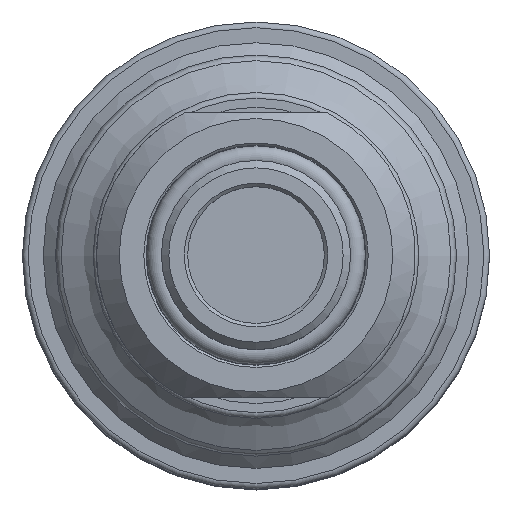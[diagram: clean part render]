
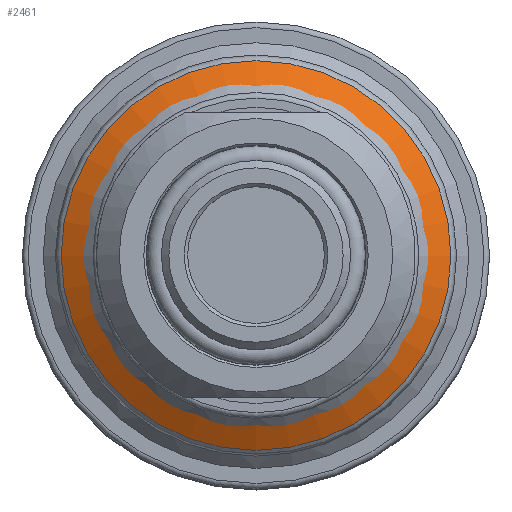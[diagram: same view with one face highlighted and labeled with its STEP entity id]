
A CAD part, top view. The second image highlights one B-rep face of the part: STEP entity #2461.
In plain terms, the highlighted conical face has half-angle 59.976 degrees and reference radius 13.9 mm.
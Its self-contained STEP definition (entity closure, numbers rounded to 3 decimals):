
#2461 = ADVANCED_FACE( '', ( #5299, #5300 ), #5301, .T. );
#5299 = FACE_OUTER_BOUND( '', #9477, .T. );
#5300 = FACE_BOUND( '', #9478, .T. );
#5301 = CONICAL_SURFACE( '', #9479, 13.9, 1.047 );
#9477 = EDGE_LOOP( '', ( #12509 ) );
#9478 = EDGE_LOOP( '', ( #12510 ) );
#9479 = AXIS2_PLACEMENT_3D( '', #12511, #12512, #12513 );
#12509 = ORIENTED_EDGE( '', *, *, #17017, .F. );
#12510 = ORIENTED_EDGE( '', *, *, #17018, .T. );
#12511 = CARTESIAN_POINT( '', ( 0., 0., 10.126 ) );
#12512 = DIRECTION( '', ( 0., 0., -1. ) );
#12513 = DIRECTION( '', ( -1., 0., 0. ) );
#17017 = EDGE_CURVE( '', #18995, #18995, #18996, .T. );
#17018 = EDGE_CURVE( '', #18997, #18997, #18998, .T. );
#18995 = VERTEX_POINT( '', #22953 );
#18996 = CIRCLE( '', #22954, 17.1 );
#18997 = VERTEX_POINT( '', #22955 );
#18998 = CIRCLE( '', #22956, 13.9 );
#22953 = CARTESIAN_POINT( '', ( -17.1, 0., 8.277 ) );
#22954 = AXIS2_PLACEMENT_3D( '', #24837, #24838, #24839 );
#22955 = CARTESIAN_POINT( '', ( -13.9, 0., 10.126 ) );
#22956 = AXIS2_PLACEMENT_3D( '', #24840, #24841, #24842 );
#24837 = CARTESIAN_POINT( '', ( 0., 0., 8.277 ) );
#24838 = DIRECTION( '', ( 0., 0., -1. ) );
#24839 = DIRECTION( '', ( -1., 0., 0. ) );
#24840 = CARTESIAN_POINT( '', ( 0., 0., 10.126 ) );
#24841 = DIRECTION( '', ( 0., 0., -1. ) );
#24842 = DIRECTION( '', ( -1., 0., 0. ) );
